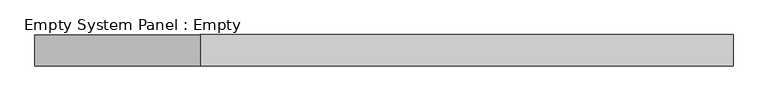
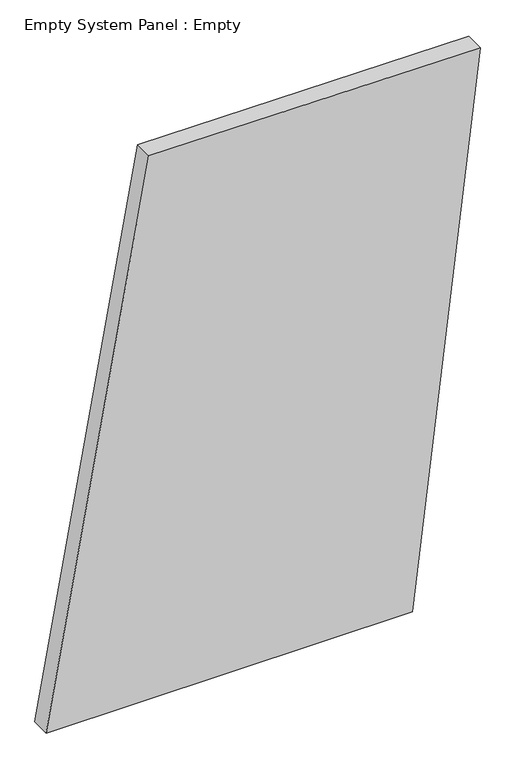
"""IFC4 building model written with IfcOpenShell, lengths in millimetres: plate geometry, Empty System Panel : Empty."""

from ifc_helpers import new_model, si_unit, frame, origin, place, context, project, spatial, polyline, outline, extrude, source, transform, mapped, element, save


def empty_system_panel_empty_5f52704f(model_context):
    return source(origin(), model_context, "Body", "SweptSolid", [
        extrude(outline(polyline([(0.0, -1137.6593137), (0.0, 782.4221401), (2998.8959509, 1137.6593137), (3007.5304635, -598.9458302), (0.0, -1137.6593137)])), frame((0.0, -50.8, 0.0), z_axis=(0.0, 1.0, 0.0), x_axis=(0.0, 0.0, 1.0)), (0.0, 0.0, 1.0), 101.6),
    ])


if __name__ == "__main__":
    model = new_model("IFC4")
    model_context = context("Model", 3, world=origin())
    ifc_project = project(units=[si_unit("LENGTHUNIT", "METRE", prefix="MILLI")], contexts=[model_context])
    site = spatial("IfcSite", under=ifc_project)
    building = spatial("IfcBuilding", under=site)
    placement = place(None, origin())
    empty_system_panel_empty_shape = empty_system_panel_empty_5f52704f(model_context)
    element("IfcPlate", 1, ObjectType="Empty System Panel : Empty", at=placement, inside=building, context=model_context, shape_type="MappedRepresentation", body=[
        mapped(empty_system_panel_empty_shape, transform((0.0, 0.0, 0.0), x_axis=(1.0, 0.0, 0.0), y_axis=(0.0, 1.0, 0.0), z_axis=(0.0, 0.0, 1.0))),
    ])
    save(model, "model.ifc")
